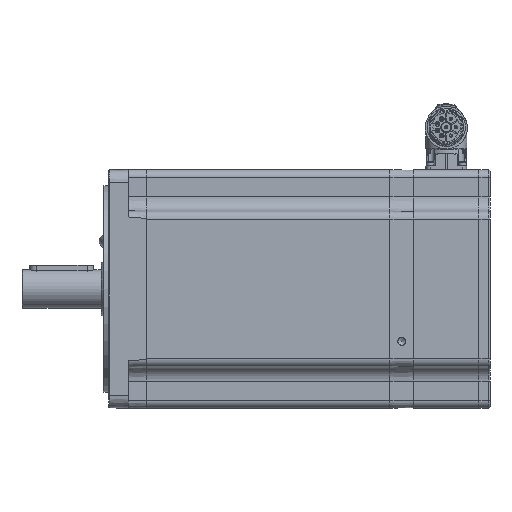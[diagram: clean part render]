
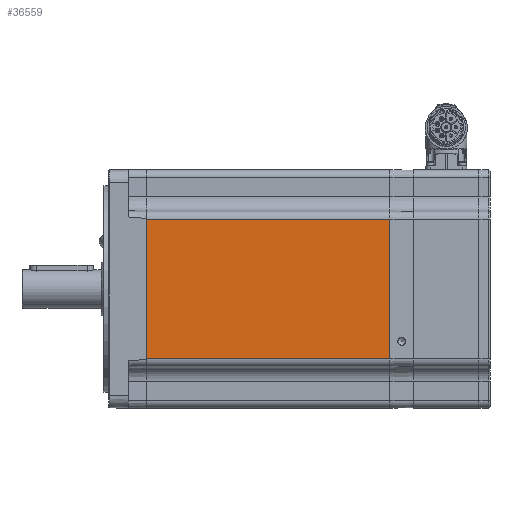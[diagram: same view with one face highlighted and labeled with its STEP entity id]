
A CAD part, left-side view. The second image highlights one B-rep face of the part: STEP entity #36559.
In plain terms, the highlighted planar face has unit normal (-1, 0, 0) as drawn and (0, -1, 0) by its records, which use the part's own axes.
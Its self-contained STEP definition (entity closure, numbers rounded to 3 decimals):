
#966=LINE('',#50101,#2631);
#987=LINE('',#50199,#2652);
#990=LINE('',#50232,#2655);
#991=LINE('',#50233,#2656);
#2631=VECTOR('',#41964,1000.);
#2652=VECTOR('',#42041,1000.);
#2655=VECTOR('',#42080,1000.);
#2656=VECTOR('',#42081,1000.);
#6872=ORIENTED_EDGE('',*,*,#13529,.F.);
#6873=ORIENTED_EDGE('',*,*,#13590,.T.);
#6874=ORIENTED_EDGE('',*,*,#13577,.T.);
#6875=ORIENTED_EDGE('',*,*,#13591,.T.);
#13529=EDGE_CURVE('',#17046,#17047,#966,.T.);
#13577=EDGE_CURVE('',#17095,#17094,#987,.T.);
#13590=EDGE_CURVE('',#17046,#17095,#990,.T.);
#13591=EDGE_CURVE('',#17094,#17047,#991,.F.);
#17046=VERTEX_POINT('',#50102);
#17047=VERTEX_POINT('',#50103);
#17094=VERTEX_POINT('',#50198);
#17095=VERTEX_POINT('',#50200);
#20776=EDGE_LOOP('',(#6872,#6873,#6874,#6875));
#22940=FACE_BOUND('',#20776,.T.);
#24628=PLANE('',#38622);
#36559=ADVANCED_FACE('',(#22940),#24628,.T.);
#38622=AXIS2_PLACEMENT_3D('',#50231,#42078,#42079);
#41964=DIRECTION('',(0.,0.,-1.));
#42041=DIRECTION('',(0.,0.,-1.));
#42078=DIRECTION('',(0.,-1.,0.));
#42079=DIRECTION('',(0.,0.,-1.));
#42080=DIRECTION('',(-1.,0.,0.));
#42081=DIRECTION('',(-1.,0.,0.));
#50101=CARTESIAN_POINT('',(-1.,-75.,75.));
#50102=CARTESIAN_POINT('',(-1.,-75.,44.));
#50103=CARTESIAN_POINT('',(-1.,-75.,-44.));
#50198=CARTESIAN_POINT('',(-154.,-75.,-44.));
#50199=CARTESIAN_POINT('',(-154.,-75.,75.));
#50200=CARTESIAN_POINT('',(-154.,-75.,44.));
#50231=CARTESIAN_POINT('',(-300.,-75.,75.));
#50232=CARTESIAN_POINT('',(-300.,-75.,44.));
#50233=CARTESIAN_POINT('',(0.,-75.,-44.));
